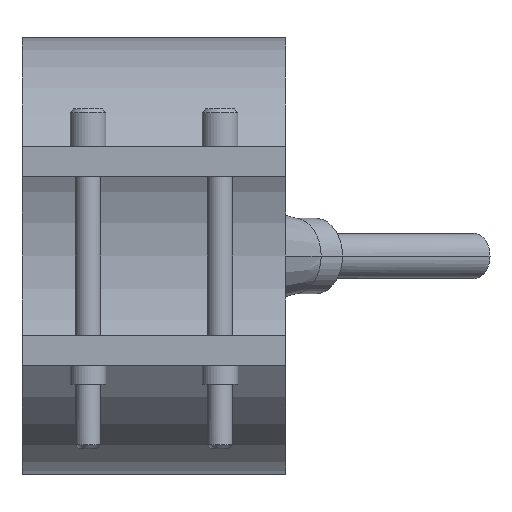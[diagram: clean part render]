
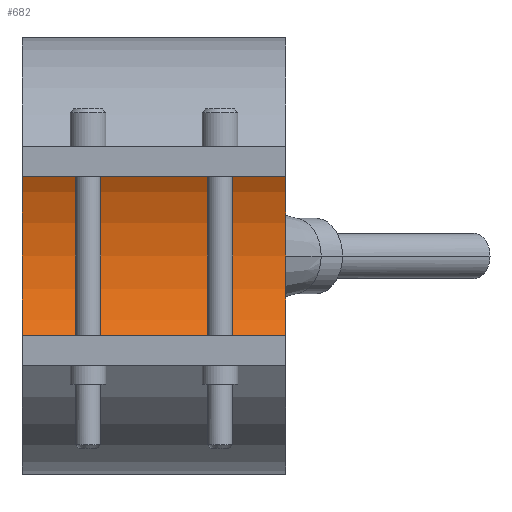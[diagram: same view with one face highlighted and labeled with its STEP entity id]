
A CAD part, front view. The second image highlights one B-rep face of the part: STEP entity #682.
In plain terms, the highlighted cylindrical face has radius 25 mm (diameter 50 mm), a partial arc.
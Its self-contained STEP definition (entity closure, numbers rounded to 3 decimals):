
#352=CARTESIAN_POINT('Vertex',(17.5,0.,25.)) ;
#357=CARTESIAN_POINT('Axis2P3D Location',(17.5,0.,0.)) ;
#361=CARTESIAN_POINT('Vertex',(17.5,0.,-25.)) ;
#468=CARTESIAN_POINT('Vertex',(-17.5,0.,-25.)) ;
#471=CARTESIAN_POINT('Axis2P3D Location',(-17.5,0.,0.)) ;
#475=CARTESIAN_POINT('Vertex',(-17.5,0.,25.)) ;
#654=CARTESIAN_POINT('Line Origine',(17.5,0.,25.)) ;
#666=CARTESIAN_POINT('Axis2P3D Location',(17.5,0.,0.)) ;
#671=CARTESIAN_POINT('Line Origine',(17.5,0.,-25.)) ;
#358=DIRECTION('Axis2P3D Direction',(1.,0.,0.)) ;
#472=DIRECTION('Axis2P3D Direction',(1.,0.,0.)) ;
#655=DIRECTION('Vector Direction',(1.,0.,0.)) ;
#667=DIRECTION('Axis2P3D Direction',(1.,0.,-0.)) ;
#668=DIRECTION('Axis2P3D XDirection',(0.,0.,-1.)) ;
#672=DIRECTION('Vector Direction',(1.,0.,0.)) ;
#359=AXIS2_PLACEMENT_3D('Circle Axis2P3D',#357,#358,$) ;
#473=AXIS2_PLACEMENT_3D('Circle Axis2P3D',#471,#472,$) ;
#669=AXIS2_PLACEMENT_3D('Cylinder Axis2P3D',#666,#667,#668) ;
#677=ORIENTED_EDGE('',*,*,#363,.T.) ;
#678=ORIENTED_EDGE('',*,*,#658,.T.) ;
#679=ORIENTED_EDGE('',*,*,#477,.F.) ;
#680=ORIENTED_EDGE('',*,*,#675,.T.) ;
#656=VECTOR('Line Direction',#655,1.) ;
#673=VECTOR('Line Direction',#672,1.) ;
#682=ADVANCED_FACE('29050035',(#681),#670,.F.) ;
#360=CIRCLE('generated circle',#359,25.) ;
#474=CIRCLE('generated circle',#473,25.) ;
#670=CYLINDRICAL_SURFACE('generated cylinder',#669,25.) ;
#363=EDGE_CURVE('',#362,#353,#360,.T.) ;
#477=EDGE_CURVE('',#469,#476,#474,.T.) ;
#658=EDGE_CURVE('',#353,#476,#657,.F.) ;
#675=EDGE_CURVE('',#469,#362,#674,.T.) ;
#676=EDGE_LOOP('',(#677,#678,#679,#680)) ;
#681=FACE_OUTER_BOUND('',#676,.T.) ;
#657=LINE('Line',#654,#656) ;
#674=LINE('Line',#671,#673) ;
#353=VERTEX_POINT('',#352) ;
#362=VERTEX_POINT('',#361) ;
#469=VERTEX_POINT('',#468) ;
#476=VERTEX_POINT('',#475) ;
